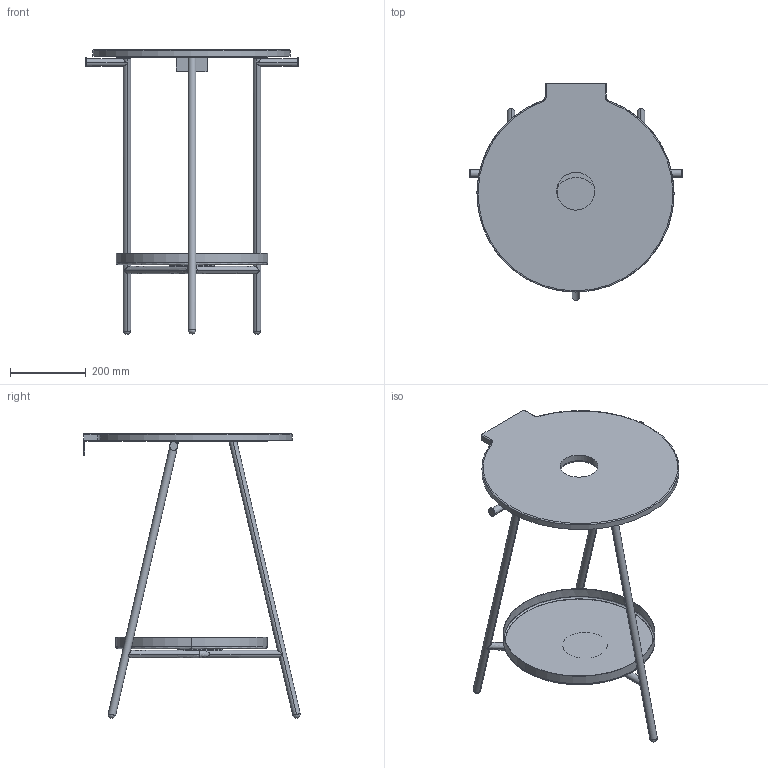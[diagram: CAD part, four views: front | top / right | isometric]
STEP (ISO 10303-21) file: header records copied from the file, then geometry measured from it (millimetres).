
FILE_DESCRIPTION(/* description */ (''),/* implementation_level */ '2;1');
FILE_NAME(/* name */ 'SDR STRUTTURA TRIO CON VASSOIO IN METALLO',/* time_stamp */ '2026-09-28T09:18:57+02:00',/* author */ (''),/* organization */ (''),/* preprocessor_version */ 'ST-DEVELOPER v19.2',/* originating_system */ 'Rhino 8.35',/* authorisation */ '');
FILE_SCHEMA (('CONFIG_CONTROL_DESIGN'));
Length unit declared in the file: millimetre
Products named in the file (1): Document
Bounding box: 560.93 x 571.11 x 751.55 mm (x, y, z)
Volume: 4350761.4 mm3; surface area: 1270236.9 mm2
Topology: 9 solids, 13 shells, 99 faces, 251 edges, 151 vertices
Faces by surface type: cylinder 42, plane 38, bspline 19
Entity records: 6066 total; most frequent: CARTESIAN_POINT 4081, ORIENTED_EDGE 450, EDGE_CURVE 237, DIRECTION 232, AXIS2_PLACEMENT_3D 156, VERTEX_POINT 151, B_SPLINE_CURVE_WITH_KNOTS 114, EDGE_LOOP 103
